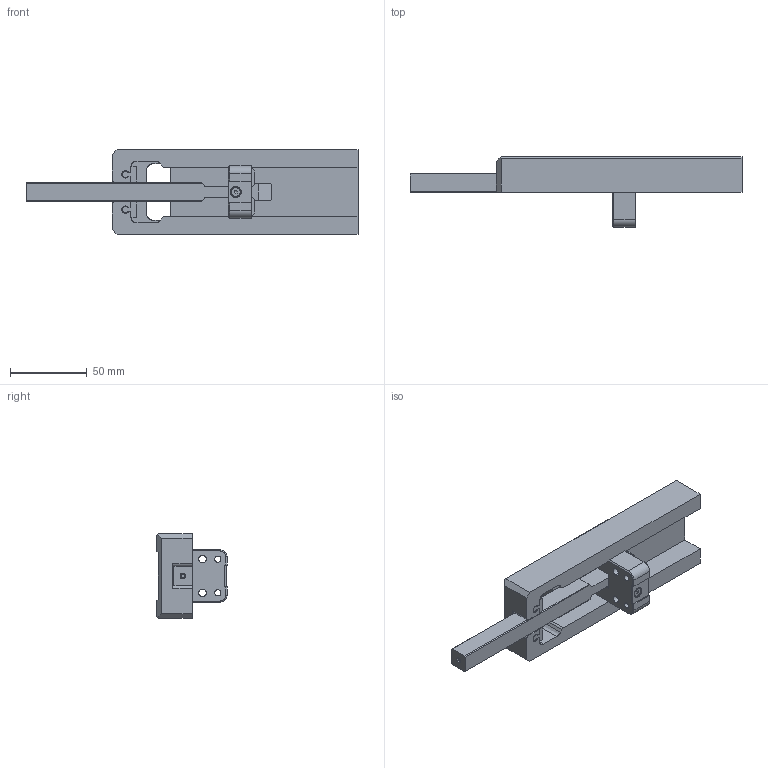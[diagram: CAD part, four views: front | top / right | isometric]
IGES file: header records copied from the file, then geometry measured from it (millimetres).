
Start section: SolidWorks IGES file using analytic representation for surfaces
Global section: file name: G:\CAD\Hakdrag\SA\SA-60\SA-60-160-15.IGS; native system: SolidWorks 2015; preprocessor: SolidWorks 2015; author: ChBe; date: 150616.065340; units: millimetre
Bounding box: 216.32 x 45.7 x 55 mm (x, y, z)
Surface area: 44624.9 mm2 (no closed solid volume)
Topology: 0 solids, 0 shells, 162 faces, 1828 edges, 1826 vertices
Faces by surface type: bspline 101, revolution 61
